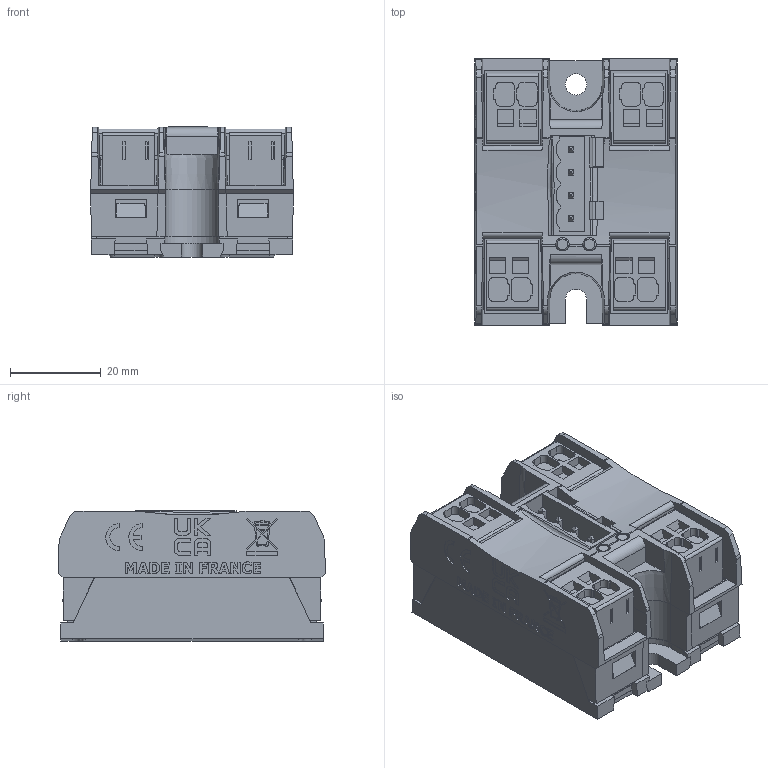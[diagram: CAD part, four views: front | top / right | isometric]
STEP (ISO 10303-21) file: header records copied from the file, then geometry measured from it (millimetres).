
FILE_DESCRIPTION(/* description */ (''),/* implementation_level */ '2;1');
FILE_NAME(/* name */ 'R:\Stock\3D pour clients\CELDUC references\2D3D 694 A.stp',/* time_stamp */ '2023-12-06T11:07:41+01:00',/* author */ ('ysicot'),/* organization */ (''),/* preprocessor_version */ 'ST-DEVELOPER v17',/* originating_system */ 'Autodesk Inventor 2018',/* authorisation */ '');
FILE_SCHEMA (('CONFIG_CONTROL_DESIGN'));
Length unit declared in the file: millimetre
Products named in the file (1): SOB Push In_Shrinkwrap_1
Bounding box: 44.8 x 59 x 28.76 mm (x, y, z)
Volume: 59407.4 mm3; surface area: 19712.9 mm2
Topology: 1 solids, 1 shells, 1129 faces, 3079 edges, 2024 vertices
Faces by surface type: plane 925, cylinder 136, bspline 42, cone 26
Full cylindrical faces by diameter (mm): 2.35 x2, 2.95 x2, 4.7 x1
Entity records: 38179 total; most frequent: CARTESIAN_POINT 8424, ORIENTED_EDGE 6158, DIRECTION 5474, EDGE_CURVE 3079, LINE 2620, VECTOR 2620, VERTEX_POINT 2024, AXIS2_PLACEMENT_3D 1427
